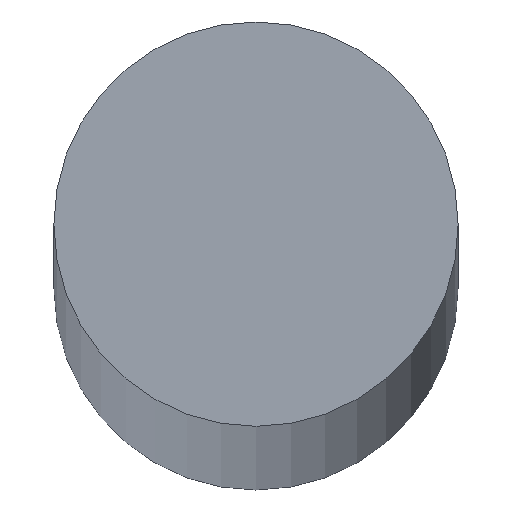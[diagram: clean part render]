
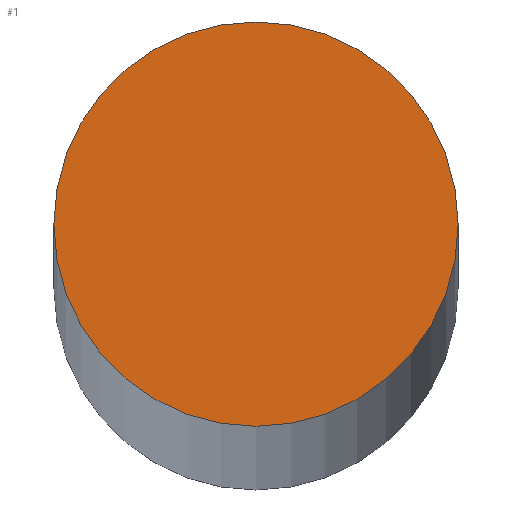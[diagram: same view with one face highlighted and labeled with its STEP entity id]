
A CAD part, top view. The second image highlights one B-rep face of the part: STEP entity #1.
In plain terms, the highlighted planar face has unit normal (0, 0, 1).
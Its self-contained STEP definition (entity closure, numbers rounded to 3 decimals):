
#1 = ADVANCED_FACE ( 'NONE', ( #82 ), #137, .T. ) ;
#5 = DIRECTION ( 'NONE',  ( 0., 0., 1. ) ) ;
#6 = DIRECTION ( 'NONE',  ( 1., 0., 0. ) ) ;
#16 = CARTESIAN_POINT ( 'NONE',  ( 0., 0., 541.5 ) ) ;
#19 = DIRECTION ( 'NONE',  ( 0., 0., 1. ) ) ;
#20 = DIRECTION ( 'NONE',  ( 1., 0., 0. ) ) ;
#21 = CARTESIAN_POINT ( 'NONE',  ( 0., 0., 541.5 ) ) ;
#23 = DIRECTION ( 'NONE',  ( 0., 0., 1. ) ) ;
#24 = DIRECTION ( 'NONE',  ( 1., 0., 0. ) ) ;
#36 = CARTESIAN_POINT ( 'NONE',  ( -6., 0., 541.5 ) ) ;
#43 = CARTESIAN_POINT ( 'NONE',  ( 6., 0., 541.5 ) ) ;
#64 = AXIS2_PLACEMENT_3D ( 'NONE', #16, #19, #20 ) ;
#66 = EDGE_CURVE ( 'NONE', #134, #138, #104, .T. ) ;
#67 = EDGE_CURVE ( 'NONE', #138, #134, #105, .T. ) ;
#69 = AXIS2_PLACEMENT_3D ( 'NONE', #135, #5, #6 ) ;
#82 = FACE_OUTER_BOUND ( 'NONE', #84, .T. ) ;
#84 = EDGE_LOOP ( 'NONE', ( #91, #90 ) ) ;
#90 = ORIENTED_EDGE ( 'NONE', *, *, #67, .T. ) ;
#91 = ORIENTED_EDGE ( 'NONE', *, *, #66, .T. ) ;
#104 = CIRCLE ( 'NONE', #64, 6. ) ;
#105 = CIRCLE ( 'NONE', #139, 6. ) ;
#134 = VERTEX_POINT ( 'NONE', #36 ) ;
#135 = CARTESIAN_POINT ( 'NONE',  ( 0., 0., 541.5 ) ) ;
#137 = PLANE ( 'NONE',  #69 ) ;
#138 = VERTEX_POINT ( 'NONE', #43 ) ;
#139 = AXIS2_PLACEMENT_3D ( 'NONE', #21, #23, #24 ) ;
